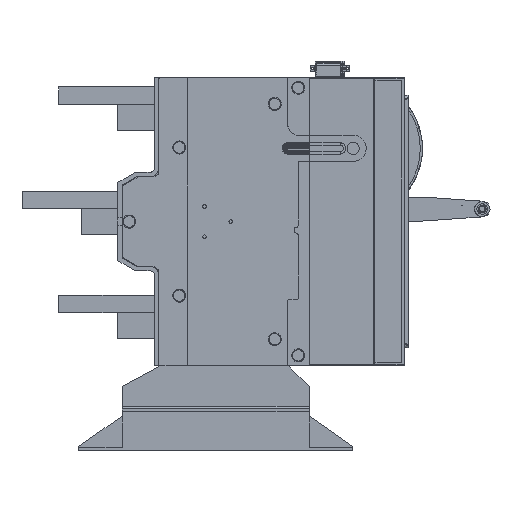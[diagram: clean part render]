
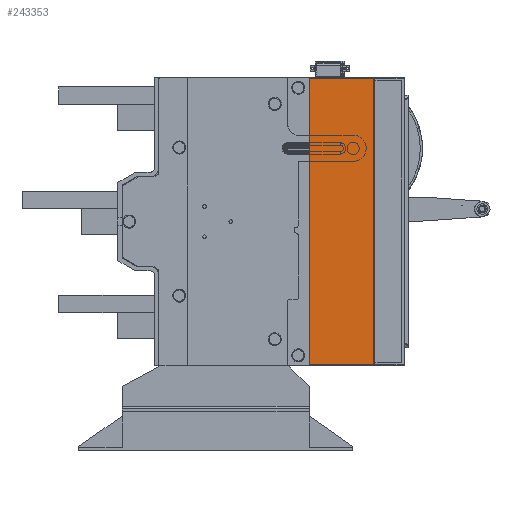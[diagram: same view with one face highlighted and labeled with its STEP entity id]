
A CAD part, left-side view. The second image highlights one B-rep face of the part: STEP entity #243353.
In plain terms, the highlighted planar face has unit normal (-1, 0, 0) as drawn and (1, 0, 0) by its records, which use the part's own axes.
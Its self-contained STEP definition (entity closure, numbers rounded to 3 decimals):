
#1996 = DIRECTION ( 'NONE',  ( 0., 1., 0. ) ) ;
#4044 = DIRECTION ( 'NONE',  ( 0., 1., 0. ) ) ;
#6147 = VERTEX_POINT ( 'NONE', #115810 ) ;
#19451 = EDGE_LOOP ( 'NONE', ( #165782, #100807, #131797, #215684 ) ) ;
#19965 = DIRECTION ( 'NONE',  ( 0., 0., 1. ) ) ;
#28642 = FACE_OUTER_BOUND ( 'NONE', #19451, .T. ) ;
#42955 = VERTEX_POINT ( 'NONE', #215627 ) ;
#65415 = LINE ( 'NONE', #260787, #115294 ) ;
#66728 = LINE ( 'NONE', #242191, #90214 ) ;
#90214 = VECTOR ( 'NONE', #4044, 1000. ) ;
#91353 = PLANE ( 'NONE',  #148401 ) ;
#95493 = VERTEX_POINT ( 'NONE', #179034 ) ;
#100807 = ORIENTED_EDGE ( 'NONE', *, *, #106525, .T. ) ;
#106525 = EDGE_CURVE ( 'NONE', #279560, #95493, #175943, .T. ) ;
#115294 = VECTOR ( 'NONE', #19965, 1000. ) ;
#115472 = CARTESIAN_POINT ( 'NONE',  ( 250., -164.5, 0.5 ) ) ;
#115810 = CARTESIAN_POINT ( 'NONE',  ( 250., -164.5, 74. ) ) ;
#131797 = ORIENTED_EDGE ( 'NONE', *, *, #167469, .T. ) ;
#148401 = AXIS2_PLACEMENT_3D ( 'NONE', #179655, #161085, #178259 ) ;
#161085 = DIRECTION ( 'NONE',  ( 1., 0., 0. ) ) ;
#165782 = ORIENTED_EDGE ( 'NONE', *, *, #175745, .T. ) ;
#167469 = EDGE_CURVE ( 'NONE', #95493, #42955, #65415, .T. ) ;
#170422 = LINE ( 'NONE', #185113, #257295 ) ;
#174562 = CARTESIAN_POINT ( 'NONE',  ( 250., -165., 0.5 ) ) ;
#175745 = EDGE_CURVE ( 'NONE', #6147, #279560, #170422, .T. ) ;
#175943 = LINE ( 'NONE', #174562, #232867 ) ;
#178259 = DIRECTION ( 'NONE',  ( 0., 1., 0. ) ) ;
#179034 = CARTESIAN_POINT ( 'NONE',  ( 250., 164.5, 0.5 ) ) ;
#179655 = CARTESIAN_POINT ( 'NONE',  ( 250., -165., 0. ) ) ;
#185113 = CARTESIAN_POINT ( 'NONE',  ( 250., -164.5, 0. ) ) ;
#215627 = CARTESIAN_POINT ( 'NONE',  ( 250., 164.5, 74. ) ) ;
#215684 = ORIENTED_EDGE ( 'NONE', *, *, #245577, .F. ) ;
#232867 = VECTOR ( 'NONE', #1996, 1000. ) ;
#242191 = CARTESIAN_POINT ( 'NONE',  ( 250., 0., 74. ) ) ;
#243353 = ADVANCED_FACE ( 'NONE', ( #28642 ), #91353, .T. ) ;
#245577 = EDGE_CURVE ( 'NONE', #6147, #42955, #66728, .T. ) ;
#257295 = VECTOR ( 'NONE', #272128, 1000. ) ;
#260787 = CARTESIAN_POINT ( 'NONE',  ( 250., 164.5, 0. ) ) ;
#272128 = DIRECTION ( 'NONE',  ( 0., 0., -1. ) ) ;
#279560 = VERTEX_POINT ( 'NONE', #115472 ) ;
